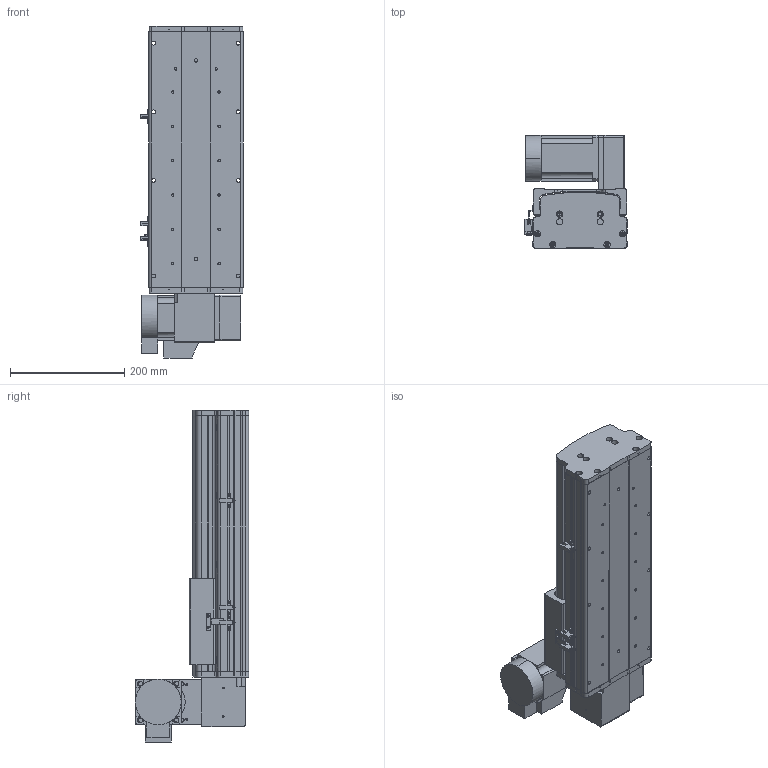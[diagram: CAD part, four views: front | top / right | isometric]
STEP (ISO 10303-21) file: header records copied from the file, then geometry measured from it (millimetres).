
FILE_DESCRIPTION (( 'STEP AP214' ), '1' );
FILE_NAME ('KSD165B-S200-MRU-CM.STEP', '2017-10-17T01:55:52', ( '微软用户' ), ( '微软中国' ), 'SwSTEP 2.0', 'SolidWorks 2014', '' );
FILE_SCHEMA (( 'AUTOMOTIVE_DESIGN' ));
Length unit declared in the file: millimetre
Products named in the file (17): U倰嫖萇假蚾璃; U倰嫖萇EEㄜSX672; 覜茼え68遵圉猾敕; KSD165模组-同步带-防撞垫2; KSD165模组同步带-防撞垫1; KSD165耀郪-ヶ傷啣1-肮祭湍; KSD165模组-后端板1-同步带; KSD165模组-同步带滑动座-最新版; KSD165B-S200-MRU-CM; 130宽模组马达安装板连板上下折丝杆同步带; 130宽模组保护罩上下左右折-同步带; HTPA26S5M250-A-H8 750W萇儂蚚; HTPA26S5M250-A-H8 400W萇儂蚚 ; KSD165模组-同步带防尘盖1-200行程-最新版; KSD165模组同步带底板-200行程-最新; 拸秶雄ん750W侜督萇儂; 165宽马达安装板同步带右
Assembly tree (20 placements, depth 2):
  KSD165B-S200-MRU-CM
    KSD165模组-同步带滑动座-最新版
    KSD165模组-后端板1-同步带
    KSD165耀郪-ヶ傷啣1-肮祭湍
    KSD165模组同步带-防撞垫1
    KSD165模组-同步带-防撞垫2
    覜茼え68遵圉猾敕
    U倰嫖萇EEㄜSX672  x3
    U倰嫖萇假蚾璃  x3
    165宽马达安装板同步带右
    拸秶雄ん750W侜督萇儂
    KSD165模组同步带底板-200行程-最新
    KSD165模组-同步带防尘盖1-200行程-最新版
    HTPA26S5M250-A-H8 400W萇儂蚚 
    HTPA26S5M250-A-H8 750W萇儂蚚
    130宽模组保护罩上下左右折-同步带
    130宽模组马达安装板连板上下折丝杆同步带
Bounding box: 178.7 x 198 x 580.5 mm (x, y, z)
Volume: 4308456.4 mm3; surface area: 989644.4 mm2
Topology: 21 solids, 21 shells, 1849 faces, 5202 edges, 3392 vertices
Faces by surface type: cylinder 1163, plane 574, cone 112
Entity records: 58972 total; most frequent: CARTESIAN_POINT 12088, DIRECTION 9782, ORIENTED_EDGE 9064, EDGE_CURVE 4532, AXIS2_PLACEMENT_3D 3820, VERTEX_POINT 2984, CIRCLE 2168, LINE 2142
